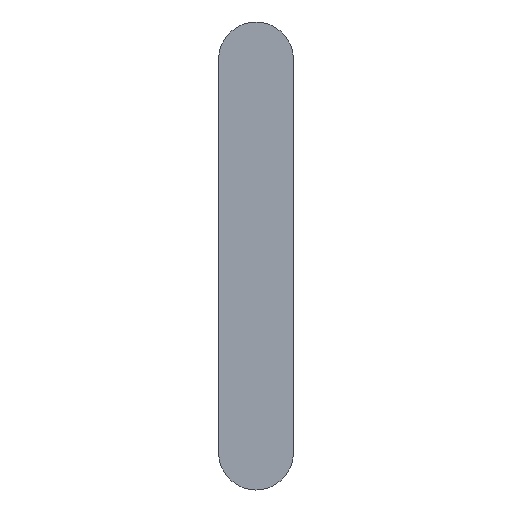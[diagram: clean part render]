
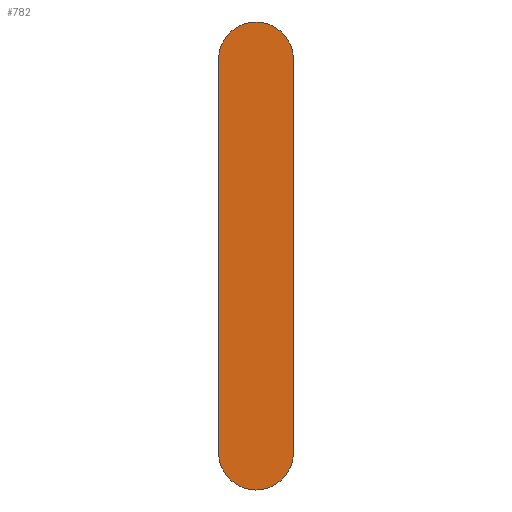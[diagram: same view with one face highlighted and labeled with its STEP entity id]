
A CAD part, front view. The second image highlights one B-rep face of the part: STEP entity #782.
In plain terms, the highlighted planar face has unit normal (0, -1, 0).
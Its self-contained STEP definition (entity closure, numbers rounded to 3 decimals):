
#19 = CIRCLE ( 'NONE', #23, 8. ) ;
#23 = AXIS2_PLACEMENT_3D ( 'NONE', #1715, #1714, #1713 ) ;
#24 = VECTOR ( 'NONE', #1709, 1000. ) ;
#189 = CARTESIAN_POINT ( 'NONE',  ( 42., 0., -8. ) ) ;
#338 = CARTESIAN_POINT ( 'NONE',  ( -42., 0., 8. ) ) ;
#486 = CARTESIAN_POINT ( 'NONE',  ( -42., 0., -8. ) ) ;
#567 = CARTESIAN_POINT ( 'NONE',  ( 42., 0., 8. ) ) ;
#644 = AXIS2_PLACEMENT_3D ( 'NONE', #1801, #1800, #1799 ) ;
#782 = ADVANCED_FACE ( 'NONE', ( #2171 ), #2164, .T. ) ;
#967 = AXIS2_PLACEMENT_3D ( 'NONE', #2166, #2162, #2161 ) ;
#1002 = VECTOR ( 'NONE', #1817, 1000. ) ;
#1004 = CIRCLE ( 'NONE', #644, 8. ) ;
#1042 = EDGE_CURVE ( 'NONE', #1506, #1410, #1828, .T. ) ;
#1046 = EDGE_CURVE ( 'NONE', #1353, #1506, #1004, .T. ) ;
#1056 = EDGE_CURVE ( 'NONE', #1410, #1592, #19, .T. ) ;
#1058 = EDGE_CURVE ( 'NONE', #1592, #1353, #1711, .T. ) ;
#1353 = VERTEX_POINT ( 'NONE', #567 ) ;
#1410 = VERTEX_POINT ( 'NONE', #486 ) ;
#1422 = ORIENTED_EDGE ( 'NONE', *, *, #1056, .F. ) ;
#1435 = ORIENTED_EDGE ( 'NONE', *, *, #1042, .F. ) ;
#1506 = VERTEX_POINT ( 'NONE', #189 ) ;
#1507 = ORIENTED_EDGE ( 'NONE', *, *, #1058, .F. ) ;
#1528 = EDGE_LOOP ( 'NONE', ( #1422, #1435, #1586, #1507 ) ) ;
#1586 = ORIENTED_EDGE ( 'NONE', *, *, #1046, .F. ) ;
#1592 = VERTEX_POINT ( 'NONE', #338 ) ;
#1709 = DIRECTION ( 'NONE',  ( 1., 0., 0. ) ) ;
#1710 = CARTESIAN_POINT ( 'NONE',  ( 42., 0., 8. ) ) ;
#1711 = LINE ( 'NONE', #1710, #24 ) ;
#1713 = DIRECTION ( 'NONE',  ( 0., 0., -1. ) ) ;
#1714 = DIRECTION ( 'NONE',  ( 0., 1., 0. ) ) ;
#1715 = CARTESIAN_POINT ( 'NONE',  ( -42., 0., 0. ) ) ;
#1799 = DIRECTION ( 'NONE',  ( 0., 0., -1. ) ) ;
#1800 = DIRECTION ( 'NONE',  ( 0., 1., 0. ) ) ;
#1801 = CARTESIAN_POINT ( 'NONE',  ( 42., 0., 0. ) ) ;
#1817 = DIRECTION ( 'NONE',  ( -1., 0., 0. ) ) ;
#1819 = CARTESIAN_POINT ( 'NONE',  ( -42., 0., -8. ) ) ;
#1828 = LINE ( 'NONE', #1819, #1002 ) ;
#2161 = DIRECTION ( 'NONE',  ( 0., 0., -1. ) ) ;
#2162 = DIRECTION ( 'NONE',  ( 0., -1., 0. ) ) ;
#2164 = PLANE ( 'NONE',  #967 ) ;
#2166 = CARTESIAN_POINT ( 'NONE',  ( -42., 0., 0. ) ) ;
#2171 = FACE_OUTER_BOUND ( 'NONE', #1528, .T. ) ;
